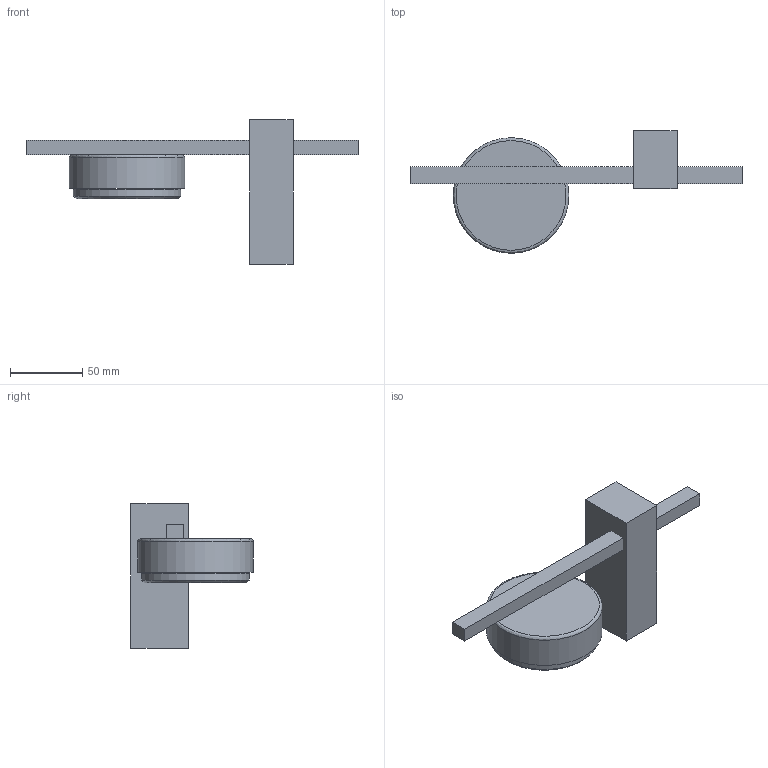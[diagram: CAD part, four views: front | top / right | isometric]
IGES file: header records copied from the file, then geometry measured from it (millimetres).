
Start section: SolidWorks IGES file using analytic representation for surfaces
Global section: file name: X:\PRODUKT\Modele 3D_WWW\_KOLEKCJE WWW\PILLS\8265\PILLS-I-KINKIET-8265.IGS; native system: SolidWorks 2021; preprocessor: SolidWorks 2021; author: gabriela.tworek; date: 221212.073410; units: millimetre
Bounding box: 230 x 84.8 x 100 mm (x, y, z)
Surface area: 52521.2 mm2 (no closed solid volume)
Topology: 0 solids, 0 shells, 20 faces, 64 edges, 60 vertices
Faces by surface type: bspline 16, revolution 4
